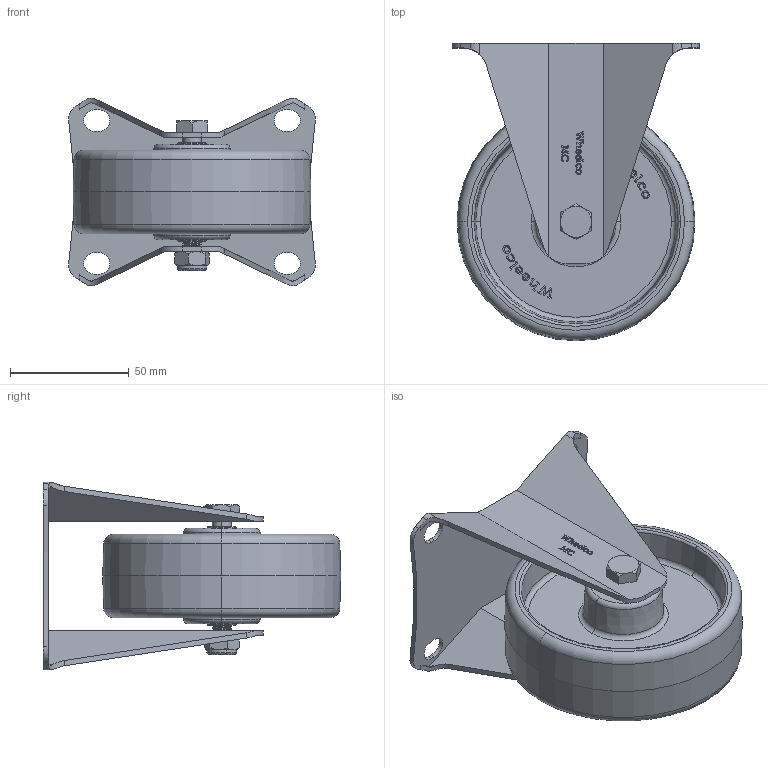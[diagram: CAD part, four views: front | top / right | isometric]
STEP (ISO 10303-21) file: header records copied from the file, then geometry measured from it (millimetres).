
FILE_DESCRIPTION (( 'STEP AP214' ), '1' );
FILE_NAME ('MCN100-F.step', '2023-11-29T20:23:48', ( '' ), ( '' ), 'SwSTEP 2.0', 'SolidWorks 2022', '' );
FILE_SCHEMA (( 'AUTOMOTIVE_DESIGN' ));
Length unit declared in the file: millimetre
Products named in the file (6): MC100-F; M8x55; M8Nyloc; MCN100; SP12-8-41; MCN100-F
Assembly tree (5 placements, depth 2):
  MCN100-F
    MC100-F
    M8x55
    M8Nyloc
    SP12-8-41
    MCN100
Bounding box: 103.72 x 125 x 78.91 mm (x, y, z)
Volume: 178332.6 mm3; surface area: 74872.2 mm2
Topology: 5 solids, 5 shells, 653 faces, 1770 edges, 1167 vertices
Faces by surface type: plane 307, bspline 168, cylinder 118, cone 32, torus 26, sphere 2
Entity records: 37048 total; most frequent: CARTESIAN_POINT 19233, ORIENTED_EDGE 3540, DIRECTION 2417, EDGE_CURVE 1770, VERTEX_POINT 1167, VECTOR 1057, LINE 1057, EDGE_LOOP 711
